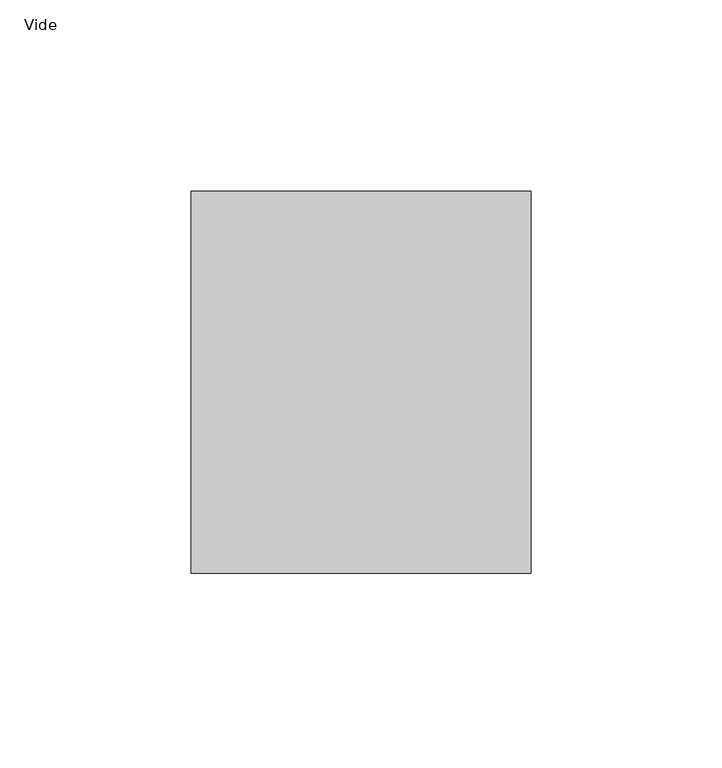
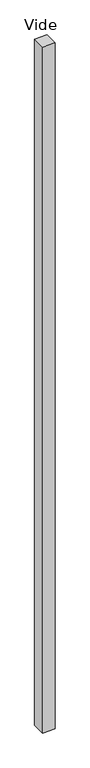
"""IFC4 building model written with IfcOpenShell, lengths in millimetres: plate geometry, Panneau système vide : Vide."""

from ifc_helpers import new_model, si_unit, origin, origin_with_axes, place, context, project, spatial, polyline, outline, extrude, source, transform, mapped, element, save


def vide_fa33940b(model_context):
    return source(origin(), model_context, "Body", "SweptSolid", [
        extrude(outline(polyline([(44.5000002, 50.0), (-44.5000002, 50.0), (-44.5000002, 150.0), (44.5000002, 150.0), (44.5000002, 50.0)])), origin_with_axes(), (0.0, 0.0, 1.0), 5176.3809021),
    ])


if __name__ == "__main__":
    model = new_model("IFC4")
    model_context = context("Model", 3, world=origin())
    ifc_project = project(units=[si_unit("LENGTHUNIT", "METRE", prefix="MILLI")], contexts=[model_context])
    site = spatial("IfcSite", under=ifc_project)
    building = spatial("IfcBuilding", under=site)
    placement = place(None, origin())
    vide_shape = vide_fa33940b(model_context)
    element("IfcPlate", 1, ObjectType="Panneau système vide : Vide", at=placement, inside=building, context=model_context, shape_type="MappedRepresentation", body=[
        mapped(vide_shape, transform((0.0, 0.0, 0.0), x_axis=(1.0, 0.0, 0.0), y_axis=(0.0, 1.0, 0.0), z_axis=(0.0, 0.0, 1.0))),
    ])
    save(model, "model.ifc")
